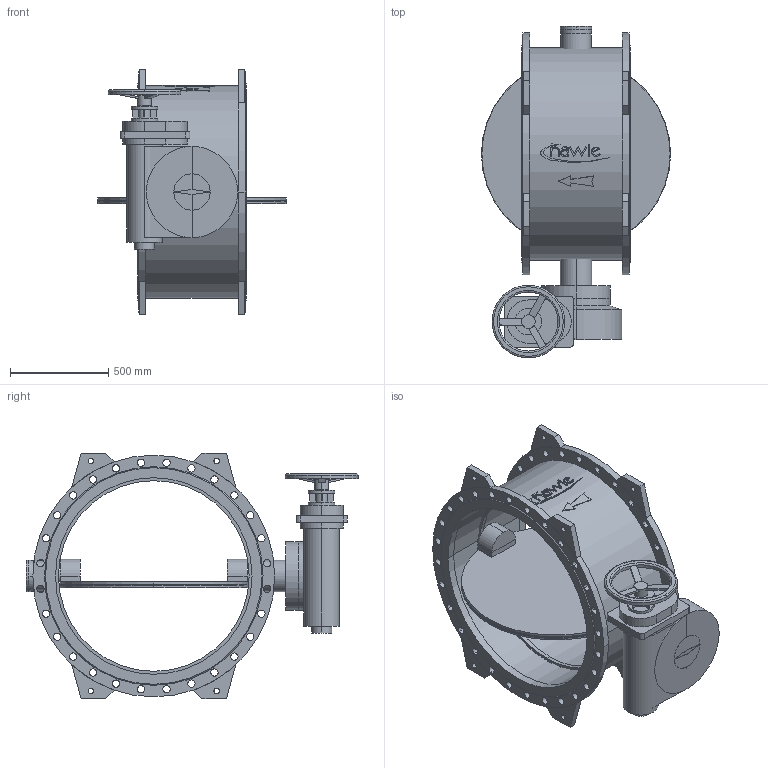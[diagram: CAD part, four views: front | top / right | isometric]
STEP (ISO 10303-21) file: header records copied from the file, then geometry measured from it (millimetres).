
FILE_DESCRIPTION(('STEP AP214'),'1');
FILE_NAME('S:/EK/USER/CAT6/3DHomepage_27-04-2012/neu_08-01-2013/9881K/9881K_PN10_DN1000_7800.STP','2013-03-11T15:22:51',(' '),(' '),'Spatial InterOp 3D',' ',' ');
FILE_SCHEMA(('automotive_design'));
Length unit declared in the file: millimetre
Products named in the file (53): 3D-Objekt
Bounding box: 962 x 1689 x 1250 mm (x, y, z)
Volume: 202603498 mm3; surface area: 11524146 mm2
Topology: 53 solids, 53 shells, 491 faces, 1148 edges, 766 vertices
Faces by surface type: cylinder 249, plane 230, cone 8, torus 4
Entity records: 19703 total; most frequent: DIRECTION 2780, CARTESIAN_POINT 2458, ORIENTED_EDGE 2296, EDGE_CURVE 1148, AXIS2_PLACEMENT_3D 1088, VERTEX_POINT 766, EDGE_LOOP 640, LINE 604
